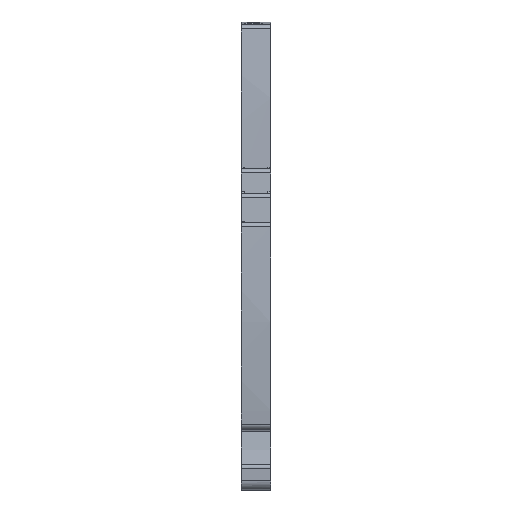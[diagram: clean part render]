
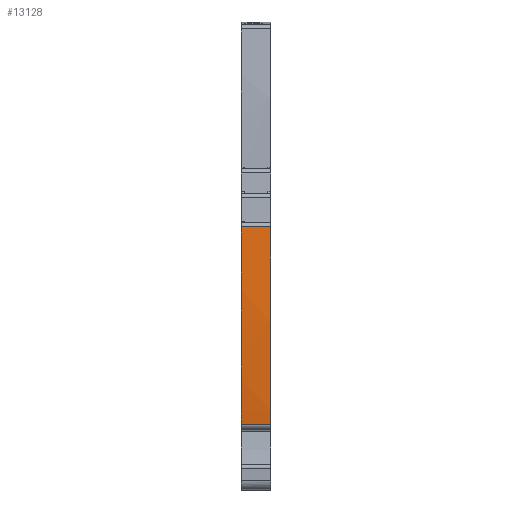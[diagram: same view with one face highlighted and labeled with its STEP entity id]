
A CAD part, front view. The second image highlights one B-rep face of the part: STEP entity #13128.
In plain terms, the highlighted cylindrical face has radius 202 mm (diameter 404 mm), a partial arc.
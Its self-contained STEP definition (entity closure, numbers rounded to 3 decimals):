
#4566=AXIS2_PLACEMENT_3D('Circle Axis2P3D',#4564,#4565,$) ;
#4573=AXIS2_PLACEMENT_3D('Circle Axis2P3D',#4571,#4572,$) ;
#4580=AXIS2_PLACEMENT_3D('Circle Axis2P3D',#4578,#4579,$) ;
#13111=AXIS2_PLACEMENT_3D('Cylinder Axis2P3D',#13108,#13109,#13110) ;
#2606=CARTESIAN_POINT('Vertex',(6.,0.609,53.828)) ;
#2610=CARTESIAN_POINT('Control Point',(6.,0.609,53.828)) ;
#2611=CARTESIAN_POINT('Control Point',(6.,0.306,49.931)) ;
#2612=CARTESIAN_POINT('Control Point',(6.,0.097,46.026)) ;
#2613=CARTESIAN_POINT('Control Point',(6.,-0.018,42.118)) ;
#2614=CARTESIAN_POINT('Control Point',(6.,-0.038,38.208)) ;
#2615=CARTESIAN_POINT('Control Point',(6.,0.037,34.3)) ;
#2616=CARTESIAN_POINT('Vertex',(6.,0.037,34.3)) ;
#2620=CARTESIAN_POINT('Control Point',(6.,0.037,34.3)) ;
#2621=CARTESIAN_POINT('Control Point',(6.,0.106,30.683)) ;
#2622=CARTESIAN_POINT('Control Point',(6.,0.256,27.068)) ;
#2623=CARTESIAN_POINT('Control Point',(6.,0.487,23.451)) ;
#2624=CARTESIAN_POINT('Control Point',(6.,0.798,19.846)) ;
#2625=CARTESIAN_POINT('Control Point',(6.,1.191,16.25)) ;
#2626=CARTESIAN_POINT('Vertex',(6.,1.191,16.25)) ;
#2630=CARTESIAN_POINT('Control Point',(6.,1.191,16.25)) ;
#2631=CARTESIAN_POINT('Control Point',(6.,1.254,15.665)) ;
#2632=CARTESIAN_POINT('Control Point',(6.,1.32,15.08)) ;
#2633=CARTESIAN_POINT('Control Point',(6.,1.388,14.496)) ;
#2634=CARTESIAN_POINT('Control Point',(6.,1.459,13.911)) ;
#2635=CARTESIAN_POINT('Control Point',(6.,1.531,13.327)) ;
#2636=CARTESIAN_POINT('Vertex',(6.,1.531,13.327)) ;
#4561=CARTESIAN_POINT('Vertex',(0.,1.531,13.327)) ;
#4564=CARTESIAN_POINT('Axis2P3D Location',(0.,202.,38.15)) ;
#4568=CARTESIAN_POINT('Vertex',(0.,1.191,16.25)) ;
#4571=CARTESIAN_POINT('Axis2P3D Location',(0.,202.,38.15)) ;
#4575=CARTESIAN_POINT('Vertex',(0.,0.037,34.3)) ;
#4578=CARTESIAN_POINT('Axis2P3D Location',(0.,202.,38.15)) ;
#4582=CARTESIAN_POINT('Vertex',(0.,0.609,53.828)) ;
#13095=CARTESIAN_POINT('Line Origine',(2.39,0.609,53.828)) ;
#13108=CARTESIAN_POINT('Axis2P3D Location',(2.55,202.,38.15)) ;
#13113=CARTESIAN_POINT('Line Origine',(2.55,1.531,13.327)) ;
#4565=DIRECTION('Axis2P3D Direction',(1.,0.,0.)) ;
#4572=DIRECTION('Axis2P3D Direction',(1.,0.,0.)) ;
#4579=DIRECTION('Axis2P3D Direction',(1.,0.,0.)) ;
#13096=DIRECTION('Vector Direction',(1.,0.,0.)) ;
#13109=DIRECTION('Axis2P3D Direction',(1.,0.,0.)) ;
#13110=DIRECTION('Axis2P3D XDirection',(0.,-0.997,0.078)) ;
#13114=DIRECTION('Vector Direction',(1.,0.,0.)) ;
#13097=VECTOR('Line Direction',#13096,1.) ;
#13115=VECTOR('Line Direction',#13114,1.) ;
#13119=ORIENTED_EDGE('',*,*,#13099,.T.) ;
#13120=ORIENTED_EDGE('',*,*,#4584,.T.) ;
#13121=ORIENTED_EDGE('',*,*,#4577,.T.) ;
#13122=ORIENTED_EDGE('',*,*,#4570,.T.) ;
#13123=ORIENTED_EDGE('',*,*,#13117,.F.) ;
#13124=ORIENTED_EDGE('',*,*,#2638,.F.) ;
#13125=ORIENTED_EDGE('',*,*,#2628,.F.) ;
#13126=ORIENTED_EDGE('',*,*,#2618,.F.) ;
#13128=ADVANCED_FACE('KLEMME',(#13127),#13112,.T.) ;
#2609=B_SPLINE_CURVE_WITH_KNOTS('',5,(#2610,#2611,#2612,#2613,#2614,#2615),.UNSPECIFIED.,.F.,.U.,(6,6),(0.,27.642),.UNSPECIFIED.) ;
#2619=B_SPLINE_CURVE_WITH_KNOTS('',5,(#2620,#2621,#2622,#2623,#2624,#2625),.UNSPECIFIED.,.F.,.U.,(6,6),(0.,25.585),.UNSPECIFIED.) ;
#2629=B_SPLINE_CURVE_WITH_KNOTS('',5,(#2630,#2631,#2632,#2633,#2634,#2635),.UNSPECIFIED.,.F.,.U.,(6,6),(0.,4.162),.UNSPECIFIED.) ;
#4567=CIRCLE('generated circle',#4566,202.) ;
#4574=CIRCLE('generated circle',#4573,202.) ;
#4581=CIRCLE('generated circle',#4580,202.) ;
#13112=CYLINDRICAL_SURFACE('generated cylinder',#13111,202.) ;
#2618=EDGE_CURVE('',#2607,#2617,#2609,.T.) ;
#2628=EDGE_CURVE('',#2617,#2627,#2619,.T.) ;
#2638=EDGE_CURVE('',#2627,#2637,#2629,.T.) ;
#4570=EDGE_CURVE('',#4569,#4562,#4567,.T.) ;
#4577=EDGE_CURVE('',#4576,#4569,#4574,.T.) ;
#4584=EDGE_CURVE('',#4583,#4576,#4581,.T.) ;
#13099=EDGE_CURVE('',#2607,#4583,#13098,.F.) ;
#13117=EDGE_CURVE('',#2637,#4562,#13116,.F.) ;
#13118=EDGE_LOOP('',(#13119,#13120,#13121,#13122,#13123,#13124,#13125,#13126)) ;
#13127=FACE_OUTER_BOUND('',#13118,.T.) ;
#13098=LINE('Line',#13095,#13097) ;
#13116=LINE('Line',#13113,#13115) ;
#2607=VERTEX_POINT('',#2606) ;
#2617=VERTEX_POINT('',#2616) ;
#2627=VERTEX_POINT('',#2626) ;
#2637=VERTEX_POINT('',#2636) ;
#4562=VERTEX_POINT('',#4561) ;
#4569=VERTEX_POINT('',#4568) ;
#4576=VERTEX_POINT('',#4575) ;
#4583=VERTEX_POINT('',#4582) ;
